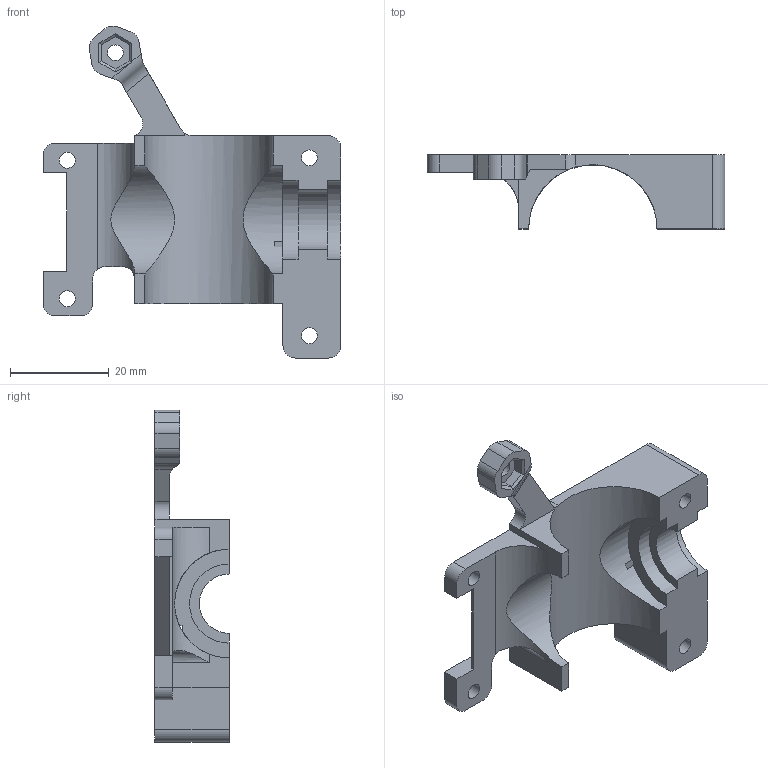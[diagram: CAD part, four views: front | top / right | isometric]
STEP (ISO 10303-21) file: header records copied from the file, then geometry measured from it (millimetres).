
FILE_DESCRIPTION(/* description */ (''),/* implementation_level */ '2;1');
FILE_NAME(/* name */ 'C:/Users/jack-_000/Documents/3dPrinter/Models/Venture Aeon/Bowden X Carriage/Clamp.step',/* time_stamp */ '2017-03-18T22:38:45+00:00',/* author */ (''),/* organization */ (''),/* preprocessor_version */ 'ST-DEVELOPER v16.5',/* originating_system */ 'Autodesk Translation Framework v5.2.0.2920',/* authorisation */ '');
FILE_SCHEMA (('AUTOMOTIVE_DESIGN { 1 0 10303 214 3 1 1 }'));
Length unit declared in the file: millimetre
Products named in the file (1): X carriage clamp v48
Bounding box: 60.2 x 15 x 67.18 mm (x, y, z)
Volume: 13476.8 mm3; surface area: 7855.2 mm2
Topology: 1 solids, 1 shells, 93 faces, 264 edges, 174 vertices
Faces by surface type: plane 58, cylinder 35
Full cylindrical faces by diameter (mm): 2.9 x1, 3.2 x7, 6 x2
Entity records: 3109 total; most frequent: CARTESIAN_POINT 629, ORIENTED_EDGE 504, DIRECTION 504, EDGE_CURVE 252, VERTEX_POINT 172, LINE 170, VECTOR 170, AXIS2_PLACEMENT_3D 167
